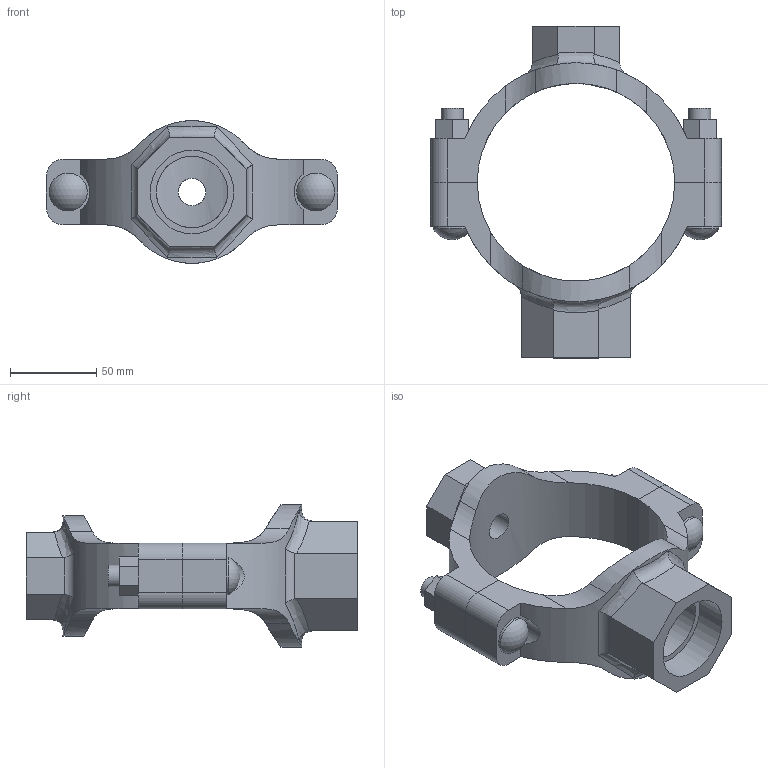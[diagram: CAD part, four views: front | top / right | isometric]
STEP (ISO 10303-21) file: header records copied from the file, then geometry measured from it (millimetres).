
FILE_DESCRIPTION(/* description */ ('VIC MECH-T BRANCH OUTLET CROSS STYLE 920N (THD)','CAx-IF Rec.Pracs.---Representation and Presentation of Product Manufacturing Information (PMI)---4.0---2014-10-13'),/* implementation_level */ '2;1');
FILE_NAME(/* name */ 'C:\Users\Vjadhav\AppData\Roaming\Autodesk\ApplicationPlugins\Back Up\Victaulic_IPS_Mechanical-Cross Outlet_Style 920N (FPT)\Victaulic_IPS_Mechanical-Cross Outlet_04.0x0.5x01.5 (100x15x40).stp',/* time_stamp */ '2020-08-06T18:58:01+05:00',/* author */ ('Vjadhav'),/* organization */ ('Victaulic'),/* preprocessor_version */ 'ST-DEVELOPER v17.2',/* originating_system */ 'Autodesk Inventor 2019',/* authorisation */ '');
FILE_SCHEMA (('AP242_MANAGED_MODEL_BASED_3D_ENGINEERING_MIM_LF { 1 0 10303 442 1 1 4 }'));
Length unit declared in the file: inch
Products named in the file (3): 920NT-04.0x0.5x01.5; 920NT-04.0x0.5; 920NT-04.0x01.5
Assembly tree (2 placements, depth 2):
  920NT-04.0x0.5x01.5
    920NT-04.0x0.5
    920NT-04.0x01.5
Bounding box: 168.4 x 192.02 x 82.42 mm (x, y, z)
Volume: 375244.3 mm3; surface area: 86112.8 mm2
Topology: 2 solids, 2 shells, 132 faces, 350 edges, 236 vertices
Faces by surface type: plane 68, cylinder 50, bspline 8, torus 4, sphere 2
Full cylindrical faces by diameter (mm): 12.7 x4, 15.799 x1, 21.336 x1, 21.982 x2, 41.275 x1, 48.26 x1
Entity records: 5268 total; most frequent: CARTESIAN_POINT 1755, ORIENTED_EDGE 700, DIRECTION 648, EDGE_CURVE 350, VERTEX_POINT 236, AXIS2_PLACEMENT_3D 231, LINE 186, VECTOR 186
